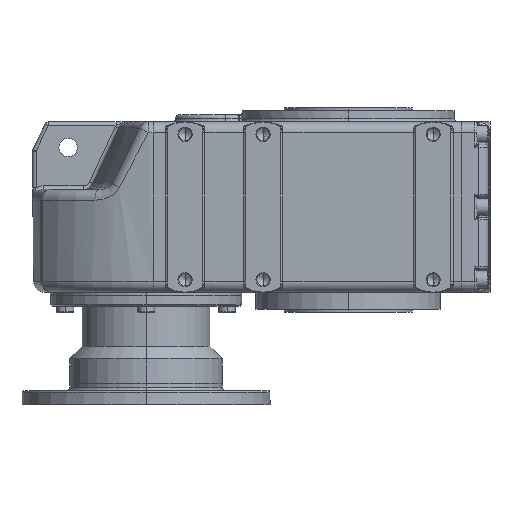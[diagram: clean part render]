
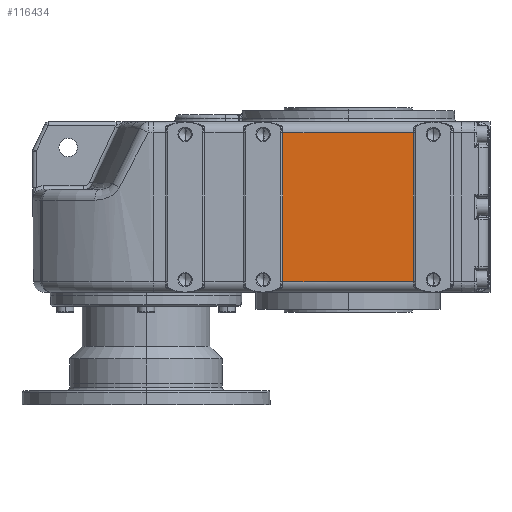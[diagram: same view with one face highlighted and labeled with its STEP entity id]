
A CAD part, left-side view. The second image highlights one B-rep face of the part: STEP entity #116434.
In plain terms, the highlighted planar face has unit normal (-1, 0, 0).
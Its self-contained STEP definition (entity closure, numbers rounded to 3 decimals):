
#116229 = EDGE_CURVE ( 'NONE', #116230, #116231, #129696, .T. ) ;
#116230 = VERTEX_POINT ( 'NONE', #129692 ) ;
#116231 = VERTEX_POINT ( 'NONE', #129691 ) ;
#116324 = EDGE_CURVE ( 'NONE', #116353, #116351, #130057, .T. ) ;
#116351 = VERTEX_POINT ( 'NONE', #130154 ) ;
#116353 = VERTEX_POINT ( 'NONE', #130153 ) ;
#116413 = ORIENTED_EDGE ( 'NONE', *, *, #116229, .T. ) ;
#116414 = ORIENTED_EDGE ( 'NONE', *, *, #116415, .T. ) ;
#116415 = EDGE_CURVE ( 'NONE', #116231, #116353, #130349, .T. ) ;
#116434 = ADVANCED_FACE ( 'NONE', ( #130373 ), #130372, .F. ) ;
#116435 = EDGE_LOOP ( 'NONE', ( #116436, #116437, #116413, #116414 ) ) ;
#116436 = ORIENTED_EDGE ( 'NONE', *, *, #116324, .T. ) ;
#116437 = ORIENTED_EDGE ( 'NONE', *, *, #116438, .T. ) ;
#116438 = EDGE_CURVE ( 'NONE', #116351, #116230, #130367, .T. ) ;
#129691 = CARTESIAN_POINT ( 'NONE',  ( -197.5, 92.042, 225. ) ) ;
#129692 = CARTESIAN_POINT ( 'NONE',  ( -197.5, -92.042, 225. ) ) ;
#129693 = DIRECTION ( 'NONE',  ( 0., 1., 0. ) ) ;
#129694 = VECTOR ( 'NONE', #129693, 1000. ) ;
#129695 = CARTESIAN_POINT ( 'NONE',  ( -197.5, 275., 225. ) ) ;
#129696 = LINE ( 'NONE', #129695, #129694 ) ;
#130054 = DIRECTION ( 'NONE',  ( 0., -1., 0. ) ) ;
#130055 = VECTOR ( 'NONE', #130054, 1000. ) ;
#130056 = CARTESIAN_POINT ( 'NONE',  ( -197.5, 275., 15. ) ) ;
#130057 = LINE ( 'NONE', #130056, #130055 ) ;
#130153 = CARTESIAN_POINT ( 'NONE',  ( -197.5, 92.042, 15. ) ) ;
#130154 = CARTESIAN_POINT ( 'NONE',  ( -197.5, -92.042, 15. ) ) ;
#130346 = DIRECTION ( 'NONE',  ( 0., 0., -1. ) ) ;
#130347 = VECTOR ( 'NONE', #130346, 1000. ) ;
#130348 = CARTESIAN_POINT ( 'NONE',  ( -197.5, 92.042, 240. ) ) ;
#130349 = LINE ( 'NONE', #130348, #130347 ) ;
#130364 = DIRECTION ( 'NONE',  ( 0., 0., 1. ) ) ;
#130365 = VECTOR ( 'NONE', #130364, 1000. ) ;
#130366 = CARTESIAN_POINT ( 'NONE',  ( -197.5, -92.042, 240. ) ) ;
#130367 = LINE ( 'NONE', #130366, #130365 ) ;
#130368 = DIRECTION ( 'NONE',  ( 0., 1., 0. ) ) ;
#130369 = DIRECTION ( 'NONE',  ( 1., 0., 0. ) ) ;
#130370 = CARTESIAN_POINT ( 'NONE',  ( -197.5, 275., 240. ) ) ;
#130371 = AXIS2_PLACEMENT_3D ( 'NONE', #130370, #130369, #130368 ) ;
#130372 = PLANE ( 'NONE',  #130371 ) ;
#130373 = FACE_OUTER_BOUND ( 'NONE', #116435, .T. ) ;
